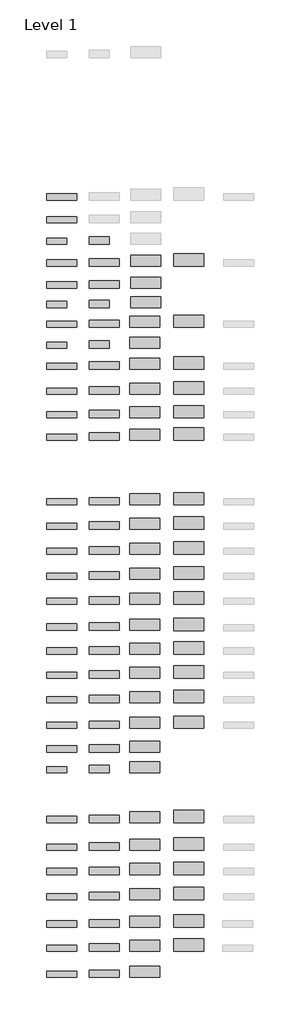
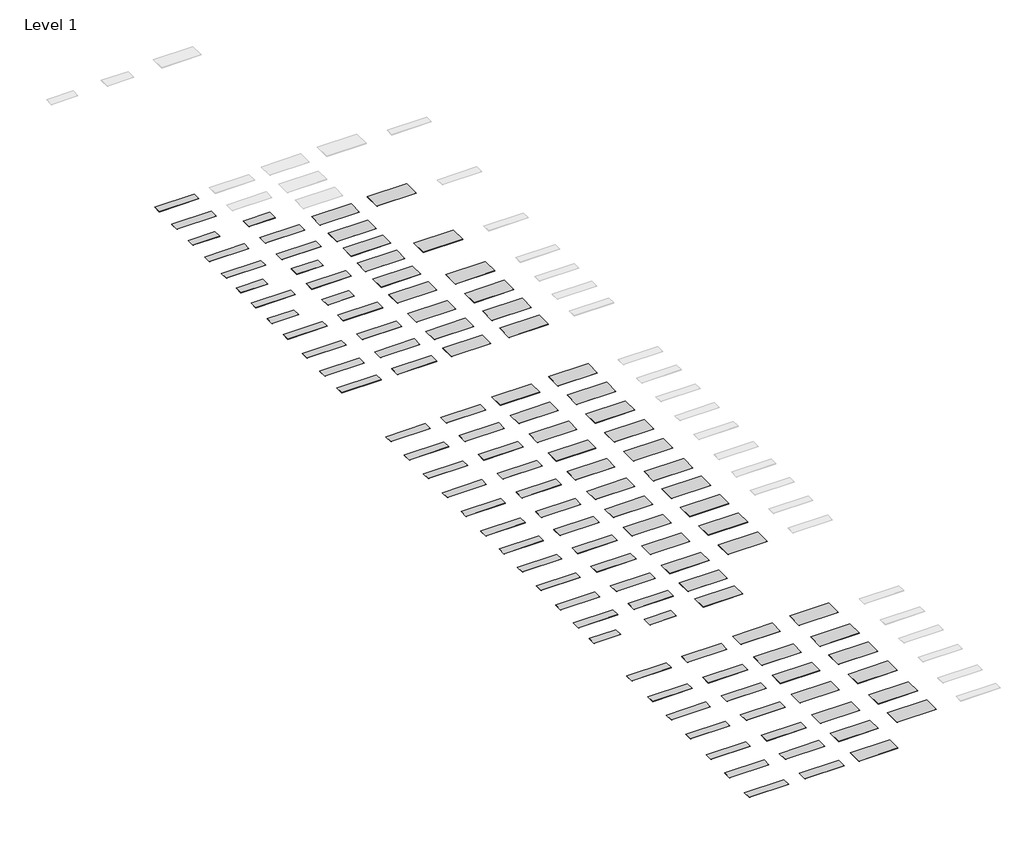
# One storey, part 1 of 2: 110 proxies.
"""IFC4 building model written with IfcOpenShell, lengths in millimetres."""

from ifc_helpers import new_model, si_unit, origin, place, context, project, spatial, transform, mapped, element, save
from components import s001_satin_white_12mm_760x3680mm_7f56e2ab, s001_satin_white_12mm_910x3680mm_ebb0e17e, s001_satin_white_12mm_1350x3680mm_c2ce3097, s001_satin_white_12mm_1520x3680mm_bc4f7f2a, s001_satin_white_6mm_760x2490mm_c0a7b58a, s001_satin_white_6mm_910x2490mm_29e5721c

model = new_model("IFC4")

# Units and contexts
model_context = context("Model", 3, world=origin())
ifc_project = project(units=[si_unit("LENGTHUNIT", "METRE", prefix="MILLI")], contexts=[model_context])

# Site, building, storey
site = spatial("IfcSite", under=ifc_project)
building = spatial("IfcBuilding", under=site)
storey = spatial("IfcBuildingStorey", under=building, Name="Level 1", Elevation=0.0)

# Proxies
placement = place(None, origin())
s001_satin_white_12mm_760x3680mm_shape = s001_satin_white_12mm_760x3680mm_7f56e2ab(model_context)
element("IfcBuildingElementProxy", 1, Name="Kitchen_Counter-Tops_Indoor-Material_HI-MACS_Solids : S102_Babylon-Beige_12mm_760x3680mm", ObjectType="Kitchen_Counter-Tops_Indoor-Material_HI-MACS_Solids : S102_Babylon-Beige_12mm_760x3680mm", at=placement, inside=storey, context=model_context, shape_type="MappedRepresentation", body=[
    mapped(s001_satin_white_12mm_760x3680mm_shape, transform((-20811.8590579, -68063.8627083, 0.0), x_axis=(1.0, 0.0, 0.0), y_axis=(0.0, 1.0, 0.0), z_axis=(0.0, 0.0, 1.0))),
])
element("IfcBuildingElementProxy", 2, Name="Kitchen_Counter-Tops_Indoor-Material_HI-MACS_Solids : S104_Toffee-Brown_12mm_760x3680mm", ObjectType="Kitchen_Counter-Tops_Indoor-Material_HI-MACS_Solids : S104_Toffee-Brown_12mm_760x3680mm", at=placement, inside=storey, context=model_context, shape_type="MappedRepresentation", body=[
    mapped(s001_satin_white_12mm_760x3680mm_shape, transform((-20811.8590579, -78724.1890533, 0.0), x_axis=(1.0, 0.0, 0.0), y_axis=(0.0, 1.0, 0.0), z_axis=(0.0, 0.0, 1.0))),
])
element("IfcBuildingElementProxy", 3, Name="Kitchen_Counter-Tops_Indoor-Material_HI-MACS_Solids : S108_Marta-Grey_12mm_760x3680mm", ObjectType="Kitchen_Counter-Tops_Indoor-Material_HI-MACS_Solids : S108_Marta-Grey_12mm_760x3680mm", at=placement, inside=storey, context=model_context, shape_type="MappedRepresentation", body=[
    mapped(s001_satin_white_12mm_760x3680mm_shape, transform((-20811.8590579, -81711.6390607, 0.0), x_axis=(1.0, 0.0, 0.0), y_axis=(0.0, 1.0, 0.0), z_axis=(0.0, 0.0, 1.0))),
])
element("IfcBuildingElementProxy", 4, Name="Kitchen_Counter-Tops_Indoor-Material_HI-MACS_Solids : S106_Lemon-Squash_12mm_760x3680mm", ObjectType="Kitchen_Counter-Tops_Indoor-Material_HI-MACS_Solids : S106_Lemon-Squash_12mm_760x3680mm", at=placement, inside=storey, context=model_context, shape_type="MappedRepresentation", body=[
    mapped(s001_satin_white_12mm_760x3680mm_shape, transform((-20811.8590579, -87827.4569194, 0.0), x_axis=(1.0, 0.0, 0.0), y_axis=(0.0, 1.0, 0.0), z_axis=(0.0, 0.0, 1.0))),
])
element("IfcBuildingElementProxy", 5, Name="Kitchen_Counter-Tops_Indoor-Material_HI-MACS_Solids : S025_Fiery-Red_12mm_760x3680mm", ObjectType="Kitchen_Counter-Tops_Indoor-Material_HI-MACS_Solids : S025_Fiery-Red_12mm_760x3680mm", at=placement, inside=storey, context=model_context, shape_type="MappedRepresentation", body=[
    mapped(s001_satin_white_12mm_760x3680mm_shape, transform((-20811.8590579, -96987.9035685, 0.0), x_axis=(1.0, 0.0, 0.0), y_axis=(0.0, 1.0, 0.0), z_axis=(0.0, 0.0, 1.0))),
])
element("IfcBuildingElementProxy", 6, Name="Kitchen_Counter-Tops_Indoor-Material_HI-MACS_Solids : S116_Festival-Pink_12mm_760x3680mm", ObjectType="Kitchen_Counter-Tops_Indoor-Material_HI-MACS_Solids : S116_Festival-Pink_12mm_760x3680mm", at=placement, inside=storey, context=model_context, shape_type="MappedRepresentation", body=[
    mapped(s001_satin_white_12mm_760x3680mm_shape, transform((-20811.8590579, -99964.5753354, 0.0), x_axis=(1.0, 0.0, 0.0), y_axis=(0.0, 1.0, 0.0), z_axis=(0.0, 0.0, 1.0))),
])
element("IfcBuildingElementProxy", 7, Name="Kitchen_Counter-Tops_Indoor-Material_HI-MACS_Solids : S115_Deep-Indigo_12mm_760x3680mm", ObjectType="Kitchen_Counter-Tops_Indoor-Material_HI-MACS_Solids : S115_Deep-Indigo_12mm_760x3680mm", at=placement, inside=storey, context=model_context, shape_type="MappedRepresentation", body=[
    mapped(s001_satin_white_12mm_760x3680mm_shape, transform((-20811.8590579, -123994.5445632, 0.0), x_axis=(1.0, 0.0, 0.0), y_axis=(0.0, 1.0, 0.0), z_axis=(0.0, 0.0, 1.0))),
])
s001_satin_white_12mm_910x3680mm_shape = s001_satin_white_12mm_910x3680mm_ebb0e17e(model_context)
element("IfcBuildingElementProxy", 8, Name="Kitchen_Counter-Tops_Indoor-Material_HI-MACS_Solids : S102_Babylon-Beige_12mm_910x3680mm", ObjectType="Kitchen_Counter-Tops_Indoor-Material_HI-MACS_Solids : S102_Babylon-Beige_12mm_910x3680mm", at=placement, inside=storey, context=model_context, shape_type="MappedRepresentation", body=[
    mapped(s001_satin_white_12mm_910x3680mm_shape, transform((-15611.8590579, -67988.8627083, 0.0), x_axis=(1.0, 0.0, 0.0), y_axis=(0.0, 1.0, 0.0), z_axis=(0.0, 0.0, 1.0))),
])
s001_satin_white_12mm_1350x3680mm_shape = s001_satin_white_12mm_1350x3680mm_c2ce3097(model_context)
element("IfcBuildingElementProxy", 9, Name="Kitchen_Counter-Tops_Indoor-Material_HI-MACS_Solids : S102_Babylon-Beige_12mm_1350x3680mm", ObjectType="Kitchen_Counter-Tops_Indoor-Material_HI-MACS_Solids : S102_Babylon-Beige_12mm_1350x3680mm", at=placement, inside=storey, context=model_context, shape_type="MappedRepresentation", body=[
    mapped(s001_satin_white_12mm_1350x3680mm_shape, transform((-10611.8590579, -67768.8627083, 0.0), x_axis=(1.0, 0.0, 0.0), y_axis=(0.0, 1.0, 0.0), z_axis=(0.0, 0.0, 1.0))),
])
s001_satin_white_12mm_1520x3680mm_shape = s001_satin_white_12mm_1520x3680mm_bc4f7f2a(model_context)
element("IfcBuildingElementProxy", 10, Name="Kitchen_Counter-Tops_Indoor-Material_HI-MACS_Solids : S102_Babylon-Beige_12mm_1520x3680mm", ObjectType="Kitchen_Counter-Tops_Indoor-Material_HI-MACS_Solids : S102_Babylon-Beige_12mm_1520x3680mm", at=placement, inside=storey, context=model_context, shape_type="MappedRepresentation", body=[
    mapped(s001_satin_white_12mm_1520x3680mm_shape, transform((-5211.8590579, -67683.8627083, 0.0), x_axis=(1.0, 0.0, 0.0), y_axis=(0.0, 1.0, 0.0), z_axis=(0.0, 0.0, 1.0))),
])
element("IfcBuildingElementProxy", 11, Name="Kitchen_Counter-Tops_Indoor-Material_HI-MACS_Solids : S104_Toffee-Brown_12mm_910x3680mm", ObjectType="Kitchen_Counter-Tops_Indoor-Material_HI-MACS_Solids : S104_Toffee-Brown_12mm_910x3680mm", at=placement, inside=storey, context=model_context, shape_type="MappedRepresentation", body=[
    mapped(s001_satin_white_12mm_910x3680mm_shape, transform((-15611.8590579, -78649.1890533, 0.0), x_axis=(1.0, 0.0, 0.0), y_axis=(0.0, 1.0, 0.0), z_axis=(0.0, 0.0, 1.0))),
])
element("IfcBuildingElementProxy", 12, Name="Kitchen_Counter-Tops_Indoor-Material_HI-MACS_Solids : S104_Toffee-Brown_12mm_1350x3680mm", ObjectType="Kitchen_Counter-Tops_Indoor-Material_HI-MACS_Solids : S104_Toffee-Brown_12mm_1350x3680mm", at=placement, inside=storey, context=model_context, shape_type="MappedRepresentation", body=[
    mapped(s001_satin_white_12mm_1350x3680mm_shape, transform((-10611.8590579, -78429.1890533, 0.0), x_axis=(1.0, 0.0, 0.0), y_axis=(0.0, 1.0, 0.0), z_axis=(0.0, 0.0, 1.0))),
])
element("IfcBuildingElementProxy", 13, Name="Kitchen_Counter-Tops_Indoor-Material_HI-MACS_Solids : S104_Toffee-Brown_12mm_1520x3680mm", ObjectType="Kitchen_Counter-Tops_Indoor-Material_HI-MACS_Solids : S104_Toffee-Brown_12mm_1520x3680mm", at=placement, inside=storey, context=model_context, shape_type="MappedRepresentation", body=[
    mapped(s001_satin_white_12mm_1520x3680mm_shape, transform((-5211.8590579, -78344.1890533, 0.0), x_axis=(1.0, 0.0, 0.0), y_axis=(0.0, 1.0, 0.0), z_axis=(0.0, 0.0, 1.0))),
])
element("IfcBuildingElementProxy", 14, Name="Kitchen_Counter-Tops_Indoor-Material_HI-MACS_Solids : S108_Marta-Grey_12mm_910x3680mm", ObjectType="Kitchen_Counter-Tops_Indoor-Material_HI-MACS_Solids : S108_Marta-Grey_12mm_910x3680mm", at=placement, inside=storey, context=model_context, shape_type="MappedRepresentation", body=[
    mapped(s001_satin_white_12mm_910x3680mm_shape, transform((-15611.8590579, -81636.6390607, 0.0), x_axis=(1.0, 0.0, 0.0), y_axis=(0.0, 1.0, 0.0), z_axis=(0.0, 0.0, 1.0))),
])
element("IfcBuildingElementProxy", 15, Name="Kitchen_Counter-Tops_Indoor-Material_HI-MACS_Solids : S108_Marta-Grey_12mm_1350x3680mm", ObjectType="Kitchen_Counter-Tops_Indoor-Material_HI-MACS_Solids : S108_Marta-Grey_12mm_1350x3680mm", at=placement, inside=storey, context=model_context, shape_type="MappedRepresentation", body=[
    mapped(s001_satin_white_12mm_1350x3680mm_shape, transform((-10611.8590579, -81416.6390607, 0.0), x_axis=(1.0, 0.0, 0.0), y_axis=(0.0, 1.0, 0.0), z_axis=(0.0, 0.0, 1.0))),
])
element("IfcBuildingElementProxy", 16, Name="Kitchen_Counter-Tops_Indoor-Material_HI-MACS_Solids : S108_Marta-Grey_12mm_1520x3680mm", ObjectType="Kitchen_Counter-Tops_Indoor-Material_HI-MACS_Solids : S108_Marta-Grey_12mm_1520x3680mm", at=placement, inside=storey, context=model_context, shape_type="MappedRepresentation", body=[
    mapped(s001_satin_white_12mm_1520x3680mm_shape, transform((-5211.8590579, -81331.6390607, 0.0), x_axis=(1.0, 0.0, 0.0), y_axis=(0.0, 1.0, 0.0), z_axis=(0.0, 0.0, 1.0))),
])
element("IfcBuildingElementProxy", 17, Name="Kitchen_Counter-Tops_Indoor-Material_HI-MACS_Solids : S106_Lemon-Squash_12mm_910x3680mm", ObjectType="Kitchen_Counter-Tops_Indoor-Material_HI-MACS_Solids : S106_Lemon-Squash_12mm_910x3680mm", at=placement, inside=storey, context=model_context, shape_type="MappedRepresentation", body=[
    mapped(s001_satin_white_12mm_910x3680mm_shape, transform((-15611.8590579, -87752.4569194, 0.0), x_axis=(1.0, 0.0, 0.0), y_axis=(0.0, 1.0, 0.0), z_axis=(0.0, 0.0, 1.0))),
])
element("IfcBuildingElementProxy", 18, Name="Kitchen_Counter-Tops_Indoor-Material_HI-MACS_Solids : S106_Lemon-Squash_12mm_1350x3680mm", ObjectType="Kitchen_Counter-Tops_Indoor-Material_HI-MACS_Solids : S106_Lemon-Squash_12mm_1350x3680mm", at=placement, inside=storey, context=model_context, shape_type="MappedRepresentation", body=[
    mapped(s001_satin_white_12mm_1350x3680mm_shape, transform((-10611.8590579, -87532.4569194, 0.0), x_axis=(1.0, 0.0, 0.0), y_axis=(0.0, 1.0, 0.0), z_axis=(0.0, 0.0, 1.0))),
])
element("IfcBuildingElementProxy", 19, Name="Kitchen_Counter-Tops_Indoor-Material_HI-MACS_Solids : S106_Lemon-Squash_12mm_1520x3680mm", ObjectType="Kitchen_Counter-Tops_Indoor-Material_HI-MACS_Solids : S106_Lemon-Squash_12mm_1520x3680mm", at=placement, inside=storey, context=model_context, shape_type="MappedRepresentation", body=[
    mapped(s001_satin_white_12mm_1520x3680mm_shape, transform((-5211.8590579, -87447.4569194, 0.0), x_axis=(1.0, 0.0, 0.0), y_axis=(0.0, 1.0, 0.0), z_axis=(0.0, 0.0, 1.0))),
])
element("IfcBuildingElementProxy", 20, Name="Kitchen_Counter-Tops_Indoor-Material_HI-MACS_Solids : S025_Fiery-Red_12mm_910x3680mm", ObjectType="Kitchen_Counter-Tops_Indoor-Material_HI-MACS_Solids : S025_Fiery-Red_12mm_910x3680mm", at=placement, inside=storey, context=model_context, shape_type="MappedRepresentation", body=[
    mapped(s001_satin_white_12mm_910x3680mm_shape, transform((-15611.8590579, -96912.9035685, 0.0), x_axis=(1.0, 0.0, 0.0), y_axis=(0.0, 1.0, 0.0), z_axis=(0.0, 0.0, 1.0))),
])
element("IfcBuildingElementProxy", 21, Name="Kitchen_Counter-Tops_Indoor-Material_HI-MACS_Solids : S025_Fiery-Red_12mm_1350x3680mm", ObjectType="Kitchen_Counter-Tops_Indoor-Material_HI-MACS_Solids : S025_Fiery-Red_12mm_1350x3680mm", at=placement, inside=storey, context=model_context, shape_type="MappedRepresentation", body=[
    mapped(s001_satin_white_12mm_1350x3680mm_shape, transform((-10611.8590579, -96692.9035685, 0.0), x_axis=(1.0, 0.0, 0.0), y_axis=(0.0, 1.0, 0.0), z_axis=(0.0, 0.0, 1.0))),
])
element("IfcBuildingElementProxy", 22, Name="Kitchen_Counter-Tops_Indoor-Material_HI-MACS_Solids : S025_Fiery-Red_12mm_1520x3680mm", ObjectType="Kitchen_Counter-Tops_Indoor-Material_HI-MACS_Solids : S025_Fiery-Red_12mm_1520x3680mm", at=placement, inside=storey, context=model_context, shape_type="MappedRepresentation", body=[
    mapped(s001_satin_white_12mm_1520x3680mm_shape, transform((-5211.8590579, -96607.9035685, 0.0), x_axis=(1.0, 0.0, 0.0), y_axis=(0.0, 1.0, 0.0), z_axis=(0.0, 0.0, 1.0))),
])
element("IfcBuildingElementProxy", 23, Name="Kitchen_Counter-Tops_Indoor-Material_HI-MACS_Solids : S116_Festival-Pink_12mm_910x3680mm", ObjectType="Kitchen_Counter-Tops_Indoor-Material_HI-MACS_Solids : S116_Festival-Pink_12mm_910x3680mm", at=placement, inside=storey, context=model_context, shape_type="MappedRepresentation", body=[
    mapped(s001_satin_white_12mm_910x3680mm_shape, transform((-15611.8590579, -99889.5753354, 0.0), x_axis=(1.0, 0.0, 0.0), y_axis=(0.0, 1.0, 0.0), z_axis=(0.0, 0.0, 1.0))),
])
element("IfcBuildingElementProxy", 24, Name="Kitchen_Counter-Tops_Indoor-Material_HI-MACS_Solids : S116_Festival-Pink_12mm_1350x3680mm", ObjectType="Kitchen_Counter-Tops_Indoor-Material_HI-MACS_Solids : S116_Festival-Pink_12mm_1350x3680mm", at=placement, inside=storey, context=model_context, shape_type="MappedRepresentation", body=[
    mapped(s001_satin_white_12mm_1350x3680mm_shape, transform((-10611.8590579, -99669.5753354, 0.0), x_axis=(1.0, 0.0, 0.0), y_axis=(0.0, 1.0, 0.0), z_axis=(0.0, 0.0, 1.0))),
])
element("IfcBuildingElementProxy", 25, Name="Kitchen_Counter-Tops_Indoor-Material_HI-MACS_Solids : S116_Festival-Pink_12mm_1520x3680mm", ObjectType="Kitchen_Counter-Tops_Indoor-Material_HI-MACS_Solids : S116_Festival-Pink_12mm_1520x3680mm", at=placement, inside=storey, context=model_context, shape_type="MappedRepresentation", body=[
    mapped(s001_satin_white_12mm_1520x3680mm_shape, transform((-5211.8590579, -99584.5753354, 0.0), x_axis=(1.0, 0.0, 0.0), y_axis=(0.0, 1.0, 0.0), z_axis=(0.0, 0.0, 1.0))),
])
element("IfcBuildingElementProxy", 26, Name="Kitchen_Counter-Tops_Indoor-Material_HI-MACS_Solids : S115_Deep-Indigo_12mm_910x3680mm", ObjectType="Kitchen_Counter-Tops_Indoor-Material_HI-MACS_Solids : S115_Deep-Indigo_12mm_910x3680mm", at=placement, inside=storey, context=model_context, shape_type="MappedRepresentation", body=[
    mapped(s001_satin_white_12mm_910x3680mm_shape, transform((-15611.8590579, -123919.5445632, 0.0), x_axis=(1.0, 0.0, 0.0), y_axis=(0.0, 1.0, 0.0), z_axis=(0.0, 0.0, 1.0))),
])
element("IfcBuildingElementProxy", 27, Name="Kitchen_Counter-Tops_Indoor-Material_HI-MACS_Solids : S115_Deep-Indigo_12mm_1350x3680mm", ObjectType="Kitchen_Counter-Tops_Indoor-Material_HI-MACS_Solids : S115_Deep-Indigo_12mm_1350x3680mm", at=placement, inside=storey, context=model_context, shape_type="MappedRepresentation", body=[
    mapped(s001_satin_white_12mm_1350x3680mm_shape, transform((-10611.8590579, -123699.5445632, 0.0), x_axis=(1.0, 0.0, 0.0), y_axis=(0.0, 1.0, 0.0), z_axis=(0.0, 0.0, 1.0))),
])
element("IfcBuildingElementProxy", 28, Name="Kitchen_Counter-Tops_Indoor-Material_HI-MACS_Solids : S115_Deep-Indigo_12mm_1520x3680mm", ObjectType="Kitchen_Counter-Tops_Indoor-Material_HI-MACS_Solids : S115_Deep-Indigo_12mm_1520x3680mm", at=placement, inside=storey, context=model_context, shape_type="MappedRepresentation", body=[
    mapped(s001_satin_white_12mm_1520x3680mm_shape, transform((-5211.8590579, -123614.5445632, 0.0), x_axis=(1.0, 0.0, 0.0), y_axis=(0.0, 1.0, 0.0), z_axis=(0.0, 0.0, 1.0))),
])
element("IfcBuildingElementProxy", 29, Name="Kitchen_Counter-Tops_Indoor-Material_HI-MACS_Solids : S001_Satin-White_12mm_1350x3680mm", ObjectType="Kitchen_Counter-Tops_Indoor-Material_HI-MACS_Solids : S001_Satin-White_12mm_1350x3680mm", at=placement, inside=storey, context=model_context, shape_type="MappedRepresentation", body=[
    mapped(s001_satin_white_12mm_1350x3680mm_shape, transform((-10511.8590579, -49177.1888204, 0.0), x_axis=(1.0, 0.0, 0.0), y_axis=(0.0, 1.0, 0.0), z_axis=(0.0, 0.0, 1.0))),
])
element("IfcBuildingElementProxy", 30, Name="Kitchen_Counter-Tops_Indoor-Material_HI-MACS_Solids : S001_Satin-White_12mm_1520x3680mm", ObjectType="Kitchen_Counter-Tops_Indoor-Material_HI-MACS_Solids : S001_Satin-White_12mm_1520x3680mm", at=placement, inside=storey, context=model_context, shape_type="MappedRepresentation", body=[
    mapped(s001_satin_white_12mm_1520x3680mm_shape, transform((-5211.8590579, -49092.1888204, 0.0), x_axis=(1.0, 0.0, 0.0), y_axis=(0.0, 1.0, 0.0), z_axis=(0.0, 0.0, 1.0))),
])
element("IfcBuildingElementProxy", 31, Name="Kitchen_Counter-Tops_Indoor-Material_HI-MACS_Solids : S001_Satin-White_12mm_760x3680mm", ObjectType="Kitchen_Counter-Tops_Indoor-Material_HI-MACS_Solids : S001_Satin-White_12mm_760x3680mm", at=placement, inside=storey, context=model_context, shape_type="MappedRepresentation", body=[
    mapped(s001_satin_white_12mm_760x3680mm_shape, transform((-20812.5064865, -49472.1888204, 0.0), x_axis=(1.0, 0.0, 0.0), y_axis=(0.0, 1.0, 0.0), z_axis=(0.0, 0.0, 1.0))),
])
element("IfcBuildingElementProxy", 32, Name="Kitchen_Counter-Tops_Indoor-Material_HI-MACS_Solids : S001_Satin-White_12mm_910x3680mm", ObjectType="Kitchen_Counter-Tops_Indoor-Material_HI-MACS_Solids : S001_Satin-White_12mm_910x3680mm", at=placement, inside=storey, context=model_context, shape_type="MappedRepresentation", body=[
    mapped(s001_satin_white_12mm_910x3680mm_shape, transform((-15611.8590579, -49397.1888204, 0.0), x_axis=(1.0, 0.0, 0.0), y_axis=(0.0, 1.0, 0.0), z_axis=(0.0, 0.0, 1.0))),
])
element("IfcBuildingElementProxy", 33, Name="Kitchen_Counter-Tops_Indoor-Material_HI-MACS_Solids : S001_Satin-White_6mm_1350x3680mm", ObjectType="Kitchen_Counter-Tops_Indoor-Material_HI-MACS_Solids : S001_Satin-White_6mm_1350x3680mm", at=placement, inside=storey, context=model_context, shape_type="MappedRepresentation", body=[
    mapped(s001_satin_white_12mm_1350x3680mm_shape, transform((-10511.8590579, -54257.1888204, 0.0), x_axis=(1.0, 0.0, 0.0), y_axis=(0.0, 1.0, 0.0), z_axis=(0.0, 0.0, 1.0))),
])
s001_satin_white_6mm_760x2490mm_shape = s001_satin_white_6mm_760x2490mm_c0a7b58a(model_context)
element("IfcBuildingElementProxy", 34, Name="Kitchen_Counter-Tops_Indoor-Material_HI-MACS_Solids : S001_Satin-White_6mm_760x2490mm", ObjectType="Kitchen_Counter-Tops_Indoor-Material_HI-MACS_Solids : S001_Satin-White_6mm_760x2490mm", at=placement, inside=storey, context=model_context, shape_type="MappedRepresentation", body=[
    mapped(s001_satin_white_6mm_760x2490mm_shape, transform((-21407.5064865, -54552.1888204, 0.0), x_axis=(1.0, 0.0, 0.0), y_axis=(0.0, 1.0, 0.0), z_axis=(0.0, 0.0, 1.0))),
])
s001_satin_white_6mm_910x2490mm_shape = s001_satin_white_6mm_910x2490mm_29e5721c(model_context)
element("IfcBuildingElementProxy", 35, Name="Kitchen_Counter-Tops_Indoor-Material_HI-MACS_Solids : S001_Satin-White_6mm_910x2490mm", ObjectType="Kitchen_Counter-Tops_Indoor-Material_HI-MACS_Solids : S001_Satin-White_6mm_910x2490mm", at=placement, inside=storey, context=model_context, shape_type="MappedRepresentation", body=[
    mapped(s001_satin_white_6mm_910x2490mm_shape, transform((-16206.8590579, -54477.1888204, 0.0), x_axis=(1.0, 0.0, 0.0), y_axis=(0.0, 1.0, 0.0), z_axis=(0.0, 0.0, 1.0))),
])
element("IfcBuildingElementProxy", 36, Name="Kitchen_Counter-Tops_Indoor-Material_HI-MACS_Solids : S001_Satin-White_9mm_1350x3680mm", ObjectType="Kitchen_Counter-Tops_Indoor-Material_HI-MACS_Solids : S001_Satin-White_9mm_1350x3680mm", at=placement, inside=storey, context=model_context, shape_type="MappedRepresentation", body=[
    mapped(s001_satin_white_12mm_1350x3680mm_shape, transform((-10511.8590579, -51877.1888204, 0.0), x_axis=(1.0, 0.0, 0.0), y_axis=(0.0, 1.0, 0.0), z_axis=(0.0, 0.0, 1.0))),
])
element("IfcBuildingElementProxy", 37, Name="Kitchen_Counter-Tops_Indoor-Material_HI-MACS_Solids : S001_Satin-White_9mm_760x3680mm", ObjectType="Kitchen_Counter-Tops_Indoor-Material_HI-MACS_Solids : S001_Satin-White_9mm_760x3680mm", at=placement, inside=storey, context=model_context, shape_type="MappedRepresentation", body=[
    mapped(s001_satin_white_12mm_760x3680mm_shape, transform((-20812.5064865, -52172.1888204, 0.0), x_axis=(1.0, 0.0, 0.0), y_axis=(0.0, 1.0, 0.0), z_axis=(0.0, 0.0, 1.0))),
])
element("IfcBuildingElementProxy", 38, Name="Kitchen_Counter-Tops_Indoor-Material_HI-MACS_Solids : S001_Satin-White_9mm_910x3680mm", ObjectType="Kitchen_Counter-Tops_Indoor-Material_HI-MACS_Solids : S001_Satin-White_9mm_910x3680mm", at=placement, inside=storey, context=model_context, shape_type="MappedRepresentation", body=[
    mapped(s001_satin_white_12mm_910x3680mm_shape, transform((-15611.8590579, -52097.1888204, 0.0), x_axis=(1.0, 0.0, 0.0), y_axis=(0.0, 1.0, 0.0), z_axis=(0.0, 0.0, 1.0))),
])
element("IfcBuildingElementProxy", 39, Name="Kitchen_Counter-Tops_Indoor-Material_HI-MACS_Solids : S002_Almond_12mm_1350x3680mm", ObjectType="Kitchen_Counter-Tops_Indoor-Material_HI-MACS_Solids : S002_Almond_12mm_1350x3680mm", at=placement, inside=storey, context=model_context, shape_type="MappedRepresentation", body=[
    mapped(s001_satin_white_12mm_1350x3680mm_shape, transform((-10611.8590579, -64877.1888204, 0.0), x_axis=(1.0, 0.0, 0.0), y_axis=(0.0, 1.0, 0.0), z_axis=(0.0, 0.0, 1.0))),
])
element("IfcBuildingElementProxy", 40, Name="Kitchen_Counter-Tops_Indoor-Material_HI-MACS_Solids : S002_Almond_12mm_1520x3680mm", ObjectType="Kitchen_Counter-Tops_Indoor-Material_HI-MACS_Solids : S002_Almond_12mm_1520x3680mm", at=placement, inside=storey, context=model_context, shape_type="MappedRepresentation", body=[
    mapped(s001_satin_white_12mm_1520x3680mm_shape, transform((-5211.8590579, -64792.1888204, 0.0), x_axis=(1.0, 0.0, 0.0), y_axis=(0.0, 1.0, 0.0), z_axis=(0.0, 0.0, 1.0))),
])
element("IfcBuildingElementProxy", 41, Name="Kitchen_Counter-Tops_Indoor-Material_HI-MACS_Solids : S002_Almond_12mm_760x3680mm", ObjectType="Kitchen_Counter-Tops_Indoor-Material_HI-MACS_Solids : S002_Almond_12mm_760x3680mm", at=placement, inside=storey, context=model_context, shape_type="MappedRepresentation", body=[
    mapped(s001_satin_white_12mm_760x3680mm_shape, transform((-20811.8590579, -65172.1888204, 0.0), x_axis=(1.0, 0.0, 0.0), y_axis=(0.0, 1.0, 0.0), z_axis=(0.0, 0.0, 1.0))),
])
element("IfcBuildingElementProxy", 42, Name="Kitchen_Counter-Tops_Indoor-Material_HI-MACS_Solids : S002_Almond_12mm_910x3680mm", ObjectType="Kitchen_Counter-Tops_Indoor-Material_HI-MACS_Solids : S002_Almond_12mm_910x3680mm", at=placement, inside=storey, context=model_context, shape_type="MappedRepresentation", body=[
    mapped(s001_satin_white_12mm_910x3680mm_shape, transform((-15611.8590579, -65097.1888204, 0.0), x_axis=(1.0, 0.0, 0.0), y_axis=(0.0, 1.0, 0.0), z_axis=(0.0, 0.0, 1.0))),
])
element("IfcBuildingElementProxy", 43, Name="Kitchen_Counter-Tops_Indoor-Material_HI-MACS_Solids : S005_Grey_12mm_1350x3680mm", ObjectType="Kitchen_Counter-Tops_Indoor-Material_HI-MACS_Solids : S005_Grey_12mm_1350x3680mm", at=placement, inside=storey, context=model_context, shape_type="MappedRepresentation", body=[
    mapped(s001_satin_white_12mm_1350x3680mm_shape, transform((-10611.8590579, -105813.3040816, 0.0), x_axis=(1.0, 0.0, 0.0), y_axis=(0.0, 1.0, 0.0), z_axis=(0.0, 0.0, 1.0))),
])
element("IfcBuildingElementProxy", 44, Name="Kitchen_Counter-Tops_Indoor-Material_HI-MACS_Solids : S005_Grey_12mm_1520x3680mm", ObjectType="Kitchen_Counter-Tops_Indoor-Material_HI-MACS_Solids : S005_Grey_12mm_1520x3680mm", at=placement, inside=storey, context=model_context, shape_type="MappedRepresentation", body=[
    mapped(s001_satin_white_12mm_1520x3680mm_shape, transform((-5211.8590579, -105728.3040816, 0.0), x_axis=(1.0, 0.0, 0.0), y_axis=(0.0, 1.0, 0.0), z_axis=(0.0, 0.0, 1.0))),
])
element("IfcBuildingElementProxy", 45, Name="Kitchen_Counter-Tops_Indoor-Material_HI-MACS_Solids : S005_Grey_12mm_760x3680mm", ObjectType="Kitchen_Counter-Tops_Indoor-Material_HI-MACS_Solids : S005_Grey_12mm_760x3680mm", at=placement, inside=storey, context=model_context, shape_type="MappedRepresentation", body=[
    mapped(s001_satin_white_12mm_760x3680mm_shape, transform((-20811.8590579, -106108.3040816, 0.0), x_axis=(1.0, 0.0, 0.0), y_axis=(0.0, 1.0, 0.0), z_axis=(0.0, 0.0, 1.0))),
])
element("IfcBuildingElementProxy", 46, Name="Kitchen_Counter-Tops_Indoor-Material_HI-MACS_Solids : S005_Grey_12mm_910x3680mm", ObjectType="Kitchen_Counter-Tops_Indoor-Material_HI-MACS_Solids : S005_Grey_12mm_910x3680mm", at=placement, inside=storey, context=model_context, shape_type="MappedRepresentation", body=[
    mapped(s001_satin_white_12mm_910x3680mm_shape, transform((-15611.8590579, -106033.3040816, 0.0), x_axis=(1.0, 0.0, 0.0), y_axis=(0.0, 1.0, 0.0), z_axis=(0.0, 0.0, 1.0))),
])
element("IfcBuildingElementProxy", 47, Name="Kitchen_Counter-Tops_Indoor-Material_HI-MACS_Solids : S005_Grey_6mm_1350x3680mm", ObjectType="Kitchen_Counter-Tops_Indoor-Material_HI-MACS_Solids : S005_Grey_6mm_1350x3680mm", at=placement, inside=storey, context=model_context, shape_type="MappedRepresentation", body=[
    mapped(s001_satin_white_12mm_1350x3680mm_shape, transform((-10611.8590579, -111253.3040816, 0.0), x_axis=(1.0, 0.0, 0.0), y_axis=(0.0, 1.0, 0.0), z_axis=(0.0, 0.0, 1.0))),
])
element("IfcBuildingElementProxy", 48, Name="Kitchen_Counter-Tops_Indoor-Material_HI-MACS_Solids : S005_Grey_6mm_760x2490mm", ObjectType="Kitchen_Counter-Tops_Indoor-Material_HI-MACS_Solids : S005_Grey_6mm_760x2490mm", at=placement, inside=storey, context=model_context, shape_type="MappedRepresentation", body=[
    mapped(s001_satin_white_6mm_760x2490mm_shape, transform((-21406.8590579, -111548.3040816, 0.0), x_axis=(1.0, 0.0, 0.0), y_axis=(0.0, 1.0, 0.0), z_axis=(0.0, 0.0, 1.0))),
])
element("IfcBuildingElementProxy", 49, Name="Kitchen_Counter-Tops_Indoor-Material_HI-MACS_Solids : S005_Grey_6mm_910x2490mm", ObjectType="Kitchen_Counter-Tops_Indoor-Material_HI-MACS_Solids : S005_Grey_6mm_910x2490mm", at=placement, inside=storey, context=model_context, shape_type="MappedRepresentation", body=[
    mapped(s001_satin_white_6mm_910x2490mm_shape, transform((-16206.8590579, -111473.3040816, 0.0), x_axis=(1.0, 0.0, 0.0), y_axis=(0.0, 1.0, 0.0), z_axis=(0.0, 0.0, 1.0))),
])
element("IfcBuildingElementProxy", 50, Name="Kitchen_Counter-Tops_Indoor-Material_HI-MACS_Solids : S005_Grey_9mm_1350x3680mm", ObjectType="Kitchen_Counter-Tops_Indoor-Material_HI-MACS_Solids : S005_Grey_9mm_1350x3680mm", at=placement, inside=storey, context=model_context, shape_type="MappedRepresentation", body=[
    mapped(s001_satin_white_12mm_1350x3680mm_shape, transform((-10611.8590579, -108713.3040816, 0.0), x_axis=(1.0, 0.0, 0.0), y_axis=(0.0, 1.0, 0.0), z_axis=(0.0, 0.0, 1.0))),
])
element("IfcBuildingElementProxy", 51, Name="Kitchen_Counter-Tops_Indoor-Material_HI-MACS_Solids : S005_Grey_9mm_760x3680mm", ObjectType="Kitchen_Counter-Tops_Indoor-Material_HI-MACS_Solids : S005_Grey_9mm_760x3680mm", at=placement, inside=storey, context=model_context, shape_type="MappedRepresentation", body=[
    mapped(s001_satin_white_12mm_760x3680mm_shape, transform((-20811.8590579, -109008.3040816, 0.0), x_axis=(1.0, 0.0, 0.0), y_axis=(0.0, 1.0, 0.0), z_axis=(0.0, 0.0, 1.0))),
])
element("IfcBuildingElementProxy", 52, Name="Kitchen_Counter-Tops_Indoor-Material_HI-MACS_Solids : S005_Grey_9mm_910x3680mm", ObjectType="Kitchen_Counter-Tops_Indoor-Material_HI-MACS_Solids : S005_Grey_9mm_910x3680mm", at=placement, inside=storey, context=model_context, shape_type="MappedRepresentation", body=[
    mapped(s001_satin_white_12mm_910x3680mm_shape, transform((-15611.8590579, -108933.3040816, 0.0), x_axis=(1.0, 0.0, 0.0), y_axis=(0.0, 1.0, 0.0), z_axis=(0.0, 0.0, 1.0))),
])
element("IfcBuildingElementProxy", 53, Name="Kitchen_Counter-Tops_Indoor-Material_HI-MACS_Solids : S009_Cream_12mm_1350x3680mm", ObjectType="Kitchen_Counter-Tops_Indoor-Material_HI-MACS_Solids : S009_Cream_12mm_1350x3680mm", at=placement, inside=storey, context=model_context, shape_type="MappedRepresentation", body=[
    mapped(s001_satin_white_12mm_1350x3680mm_shape, transform((-10611.8590579, -56684.5477152, 0.0), x_axis=(1.0, 0.0, 0.0), y_axis=(0.0, 1.0, 0.0), z_axis=(0.0, 0.0, 1.0))),
])
element("IfcBuildingElementProxy", 54, Name="Kitchen_Counter-Tops_Indoor-Material_HI-MACS_Solids : S009_Cream_12mm_1520x3680mm", ObjectType="Kitchen_Counter-Tops_Indoor-Material_HI-MACS_Solids : S009_Cream_12mm_1520x3680mm", at=placement, inside=storey, context=model_context, shape_type="MappedRepresentation", body=[
    mapped(s001_satin_white_12mm_1520x3680mm_shape, transform((-5211.8590579, -56599.5477152, 0.0), x_axis=(1.0, 0.0, 0.0), y_axis=(0.0, 1.0, 0.0), z_axis=(0.0, 0.0, 1.0))),
])
element("IfcBuildingElementProxy", 55, Name="Kitchen_Counter-Tops_Indoor-Material_HI-MACS_Solids : S009_Cream_12mm_760x3680mm", ObjectType="Kitchen_Counter-Tops_Indoor-Material_HI-MACS_Solids : S009_Cream_12mm_760x3680mm", at=placement, inside=storey, context=model_context, shape_type="MappedRepresentation", body=[
    mapped(s001_satin_white_12mm_760x3680mm_shape, transform((-20812.5064865, -56979.5477152, 0.0), x_axis=(1.0, 0.0, 0.0), y_axis=(0.0, 1.0, 0.0), z_axis=(0.0, 0.0, 1.0))),
])
element("IfcBuildingElementProxy", 56, Name="Kitchen_Counter-Tops_Indoor-Material_HI-MACS_Solids : S009_Cream_12mm_910x3680mm", ObjectType="Kitchen_Counter-Tops_Indoor-Material_HI-MACS_Solids : S009_Cream_12mm_910x3680mm", at=placement, inside=storey, context=model_context, shape_type="MappedRepresentation", body=[
    mapped(s001_satin_white_12mm_910x3680mm_shape, transform((-15611.8590579, -56904.5477152, 0.0), x_axis=(1.0, 0.0, 0.0), y_axis=(0.0, 1.0, 0.0), z_axis=(0.0, 0.0, 1.0))),
])
element("IfcBuildingElementProxy", 57, Name="Kitchen_Counter-Tops_Indoor-Material_HI-MACS_Solids : S009_Cream_6mm_1350x3680mm", ObjectType="Kitchen_Counter-Tops_Indoor-Material_HI-MACS_Solids : S009_Cream_6mm_1350x3680mm", at=placement, inside=storey, context=model_context, shape_type="MappedRepresentation", body=[
    mapped(s001_satin_white_12mm_1350x3680mm_shape, transform((-10611.8590579, -59244.5477152, 0.0), x_axis=(1.0, 0.0, 0.0), y_axis=(0.0, 1.0, 0.0), z_axis=(0.0, 0.0, 1.0))),
])
element("IfcBuildingElementProxy", 58, Name="Kitchen_Counter-Tops_Indoor-Material_HI-MACS_Solids : S009_Cream_6mm_760x2490mm", ObjectType="Kitchen_Counter-Tops_Indoor-Material_HI-MACS_Solids : S009_Cream_6mm_760x2490mm", at=placement, inside=storey, context=model_context, shape_type="MappedRepresentation", body=[
    mapped(s001_satin_white_6mm_760x2490mm_shape, transform((-21407.5064865, -59539.5477152, 0.0), x_axis=(1.0, 0.0, 0.0), y_axis=(0.0, 1.0, 0.0), z_axis=(0.0, 0.0, 1.0))),
])
element("IfcBuildingElementProxy", 59, Name="Kitchen_Counter-Tops_Indoor-Material_HI-MACS_Solids : S009_Cream_6mm_910x2490mm", ObjectType="Kitchen_Counter-Tops_Indoor-Material_HI-MACS_Solids : S009_Cream_6mm_910x2490mm", at=placement, inside=storey, context=model_context, shape_type="MappedRepresentation", body=[
    mapped(s001_satin_white_6mm_910x2490mm_shape, transform((-16206.8590579, -59464.5477152, 0.0), x_axis=(1.0, 0.0, 0.0), y_axis=(0.0, 1.0, 0.0), z_axis=(0.0, 0.0, 1.0))),
])
element("IfcBuildingElementProxy", 60, Name="Kitchen_Counter-Tops_Indoor-Material_HI-MACS_Solids : S022_Black_12mm_1350x3680mm", ObjectType="Kitchen_Counter-Tops_Indoor-Material_HI-MACS_Solids : S022_Black_12mm_1350x3680mm", at=placement, inside=storey, context=model_context, shape_type="MappedRepresentation", body=[
    mapped(s001_satin_white_12mm_1350x3680mm_shape, transform((-10611.8590579, -133111.0645662, 0.0), x_axis=(1.0, 0.0, 0.0), y_axis=(0.0, 1.0, 0.0), z_axis=(0.0, 0.0, 1.0))),
])
element("IfcBuildingElementProxy", 61, Name="Kitchen_Counter-Tops_Indoor-Material_HI-MACS_Solids : S022_Black_12mm_1520x3680mm", ObjectType="Kitchen_Counter-Tops_Indoor-Material_HI-MACS_Solids : S022_Black_12mm_1520x3680mm", at=placement, inside=storey, context=model_context, shape_type="MappedRepresentation", body=[
    mapped(s001_satin_white_12mm_1520x3680mm_shape, transform((-5211.8590579, -133026.0645662, 0.0), x_axis=(1.0, 0.0, 0.0), y_axis=(0.0, 1.0, 0.0), z_axis=(0.0, 0.0, 1.0))),
])
element("IfcBuildingElementProxy", 62, Name="Kitchen_Counter-Tops_Indoor-Material_HI-MACS_Solids : S022_Black_12mm_760x3680mm", ObjectType="Kitchen_Counter-Tops_Indoor-Material_HI-MACS_Solids : S022_Black_12mm_760x3680mm", at=placement, inside=storey, context=model_context, shape_type="MappedRepresentation", body=[
    mapped(s001_satin_white_12mm_760x3680mm_shape, transform((-20811.8590579, -133406.0645662, 0.0), x_axis=(1.0, 0.0, 0.0), y_axis=(0.0, 1.0, 0.0), z_axis=(0.0, 0.0, 1.0))),
])
element("IfcBuildingElementProxy", 63, Name="Kitchen_Counter-Tops_Indoor-Material_HI-MACS_Solids : S022_Black_12mm_910x3680mm", ObjectType="Kitchen_Counter-Tops_Indoor-Material_HI-MACS_Solids : S022_Black_12mm_910x3680mm", at=placement, inside=storey, context=model_context, shape_type="MappedRepresentation", body=[
    mapped(s001_satin_white_12mm_910x3680mm_shape, transform((-15611.8590579, -133331.0645662, 0.0), x_axis=(1.0, 0.0, 0.0), y_axis=(0.0, 1.0, 0.0), z_axis=(0.0, 0.0, 1.0))),
])
element("IfcBuildingElementProxy", 64, Name="Kitchen_Counter-Tops_Indoor-Material_HI-MACS_Solids : S022_Black_9mm_1350x3680mm", ObjectType="Kitchen_Counter-Tops_Indoor-Material_HI-MACS_Solids : S022_Black_9mm_1350x3680mm", at=placement, inside=storey, context=model_context, shape_type="MappedRepresentation", body=[
    mapped(s001_satin_white_12mm_1350x3680mm_shape, transform((-10611.8590579, -136311.0645662, 0.0), x_axis=(1.0, 0.0, 0.0), y_axis=(0.0, 1.0, 0.0), z_axis=(0.0, 0.0, 1.0))),
])
element("IfcBuildingElementProxy", 65, Name="Kitchen_Counter-Tops_Indoor-Material_HI-MACS_Solids : S022_Black_9mm_760x3680mm", ObjectType="Kitchen_Counter-Tops_Indoor-Material_HI-MACS_Solids : S022_Black_9mm_760x3680mm", at=placement, inside=storey, context=model_context, shape_type="MappedRepresentation", body=[
    mapped(s001_satin_white_12mm_760x3680mm_shape, transform((-20811.8590579, -136606.0645662, 0.0), x_axis=(1.0, 0.0, 0.0), y_axis=(0.0, 1.0, 0.0), z_axis=(0.0, 0.0, 1.0))),
])
element("IfcBuildingElementProxy", 66, Name="Kitchen_Counter-Tops_Indoor-Material_HI-MACS_Solids : S022_Black_9mm_910x3680mm", ObjectType="Kitchen_Counter-Tops_Indoor-Material_HI-MACS_Solids : S022_Black_9mm_910x3680mm", at=placement, inside=storey, context=model_context, shape_type="MappedRepresentation", body=[
    mapped(s001_satin_white_12mm_910x3680mm_shape, transform((-15611.8590579, -136531.0645662, 0.0), x_axis=(1.0, 0.0, 0.0), y_axis=(0.0, 1.0, 0.0), z_axis=(0.0, 0.0, 1.0))),
])
element("IfcBuildingElementProxy", 67, Name="Kitchen_Counter-Tops_Indoor-Material_HI-MACS_Solids : S026_Banana_12mm_1350x3680mm", ObjectType="Kitchen_Counter-Tops_Indoor-Material_HI-MACS_Solids : S026_Banana_12mm_1350x3680mm", at=placement, inside=storey, context=model_context, shape_type="MappedRepresentation", body=[
    mapped(s001_satin_white_12mm_1350x3680mm_shape, transform((-10611.8590579, -90594.7667378, 0.0), x_axis=(1.0, 0.0, 0.0), y_axis=(0.0, 1.0, 0.0), z_axis=(0.0, 0.0, 1.0))),
])
element("IfcBuildingElementProxy", 68, Name="Kitchen_Counter-Tops_Indoor-Material_HI-MACS_Solids : S026_Banana_12mm_1520x3680mm", ObjectType="Kitchen_Counter-Tops_Indoor-Material_HI-MACS_Solids : S026_Banana_12mm_1520x3680mm", at=placement, inside=storey, context=model_context, shape_type="MappedRepresentation", body=[
    mapped(s001_satin_white_12mm_1520x3680mm_shape, transform((-5211.8590579, -90509.7667378, 0.0), x_axis=(1.0, 0.0, 0.0), y_axis=(0.0, 1.0, 0.0), z_axis=(0.0, 0.0, 1.0))),
])
element("IfcBuildingElementProxy", 69, Name="Kitchen_Counter-Tops_Indoor-Material_HI-MACS_Solids : S026_Banana_12mm_760x3680mm", ObjectType="Kitchen_Counter-Tops_Indoor-Material_HI-MACS_Solids : S026_Banana_12mm_760x3680mm", at=placement, inside=storey, context=model_context, shape_type="MappedRepresentation", body=[
    mapped(s001_satin_white_12mm_760x3680mm_shape, transform((-20811.8590579, -90889.7667378, 0.0), x_axis=(1.0, 0.0, 0.0), y_axis=(0.0, 1.0, 0.0), z_axis=(0.0, 0.0, 1.0))),
])
element("IfcBuildingElementProxy", 70, Name="Kitchen_Counter-Tops_Indoor-Material_HI-MACS_Solids : S026_Banana_12mm_910x3680mm", ObjectType="Kitchen_Counter-Tops_Indoor-Material_HI-MACS_Solids : S026_Banana_12mm_910x3680mm", at=placement, inside=storey, context=model_context, shape_type="MappedRepresentation", body=[
    mapped(s001_satin_white_12mm_910x3680mm_shape, transform((-15611.8590579, -90814.7667378, 0.0), x_axis=(1.0, 0.0, 0.0), y_axis=(0.0, 1.0, 0.0), z_axis=(0.0, 0.0, 1.0))),
])
element("IfcBuildingElementProxy", 71, Name="Kitchen_Counter-Tops_Indoor-Material_HI-MACS_Solids : S027_Orange_12mm_1350x3680mm", ObjectType="Kitchen_Counter-Tops_Indoor-Material_HI-MACS_Solids : S027_Orange_12mm_1350x3680mm", at=placement, inside=storey, context=model_context, shape_type="MappedRepresentation", body=[
    mapped(s001_satin_white_12mm_1350x3680mm_shape, transform((-10611.8590579, -93768.5615786, 0.0), x_axis=(1.0, 0.0, 0.0), y_axis=(0.0, 1.0, 0.0), z_axis=(0.0, 0.0, 1.0))),
])
element("IfcBuildingElementProxy", 72, Name="Kitchen_Counter-Tops_Indoor-Material_HI-MACS_Solids : S027_Orange_12mm_1520x3680mm", ObjectType="Kitchen_Counter-Tops_Indoor-Material_HI-MACS_Solids : S027_Orange_12mm_1520x3680mm", at=placement, inside=storey, context=model_context, shape_type="MappedRepresentation", body=[
    mapped(s001_satin_white_12mm_1520x3680mm_shape, transform((-5211.8590579, -93768.5615786, 0.0), x_axis=(1.0, 0.0, 0.0), y_axis=(0.0, 1.0, 0.0), z_axis=(0.0, 0.0, 1.0))),
])
element("IfcBuildingElementProxy", 73, Name="Kitchen_Counter-Tops_Indoor-Material_HI-MACS_Solids : S027_Orange_12mm_760x3680mm", ObjectType="Kitchen_Counter-Tops_Indoor-Material_HI-MACS_Solids : S027_Orange_12mm_760x3680mm", at=placement, inside=storey, context=model_context, shape_type="MappedRepresentation", body=[
    mapped(s001_satin_white_12mm_760x3680mm_shape, transform((-20811.8590579, -94063.5615786, 0.0), x_axis=(1.0, 0.0, 0.0), y_axis=(0.0, 1.0, 0.0), z_axis=(0.0, 0.0, 1.0))),
])
element("IfcBuildingElementProxy", 74, Name="Kitchen_Counter-Tops_Indoor-Material_HI-MACS_Solids : S027_Orange_12mm_910x3680mm", ObjectType="Kitchen_Counter-Tops_Indoor-Material_HI-MACS_Solids : S027_Orange_12mm_910x3680mm", at=placement, inside=storey, context=model_context, shape_type="MappedRepresentation", body=[
    mapped(s001_satin_white_12mm_910x3680mm_shape, transform((-15611.8590579, -93988.5615786, 0.0), x_axis=(1.0, 0.0, 0.0), y_axis=(0.0, 1.0, 0.0), z_axis=(0.0, 0.0, 1.0))),
])
element("IfcBuildingElementProxy", 75, Name="Kitchen_Counter-Tops_Indoor-Material_HI-MACS_Solids : S029_Ivory-White_12mm_760x3680mm", ObjectType="Kitchen_Counter-Tops_Indoor-Material_HI-MACS_Solids : S029_Ivory-White_12mm_760x3680mm", at=placement, inside=storey, context=model_context, shape_type="MappedRepresentation", body=[
    mapped(s001_satin_white_12mm_760x3680mm_shape, transform((-20811.8590579, -41376.1039936, 0.0), x_axis=(1.0, 0.0, 0.0), y_axis=(0.0, 1.0, 0.0), z_axis=(0.0, 0.0, 1.0))),
])
element("IfcBuildingElementProxy", 76, Name="Kitchen_Counter-Tops_Indoor-Material_HI-MACS_Solids : S029_Ivory-White_6mm_760x2490mm", ObjectType="Kitchen_Counter-Tops_Indoor-Material_HI-MACS_Solids : S029_Ivory-White_6mm_760x2490mm", at=placement, inside=storey, context=model_context, shape_type="MappedRepresentation", body=[
    mapped(s001_satin_white_6mm_760x2490mm_shape, transform((-21406.8590579, -46796.1039936, 0.0), x_axis=(1.0, 0.0, 0.0), y_axis=(0.0, 1.0, 0.0), z_axis=(0.0, 0.0, 1.0))),
])
element("IfcBuildingElementProxy", 77, Name="Kitchen_Counter-Tops_Indoor-Material_HI-MACS_Solids : S029_Ivory-White_6mm_910x2490mm", ObjectType="Kitchen_Counter-Tops_Indoor-Material_HI-MACS_Solids : S029_Ivory-White_6mm_910x2490mm", at=placement, inside=storey, context=model_context, shape_type="MappedRepresentation", body=[
    mapped(s001_satin_white_6mm_910x2490mm_shape, transform((-16206.8590579, -46721.1039936, 0.0), x_axis=(1.0, 0.0, 0.0), y_axis=(0.0, 1.0, 0.0), z_axis=(0.0, 0.0, 1.0))),
])
element("IfcBuildingElementProxy", 78, Name="Kitchen_Counter-Tops_Indoor-Material_HI-MACS_Solids : S029_Ivory-White_9mm_760x3680mm", ObjectType="Kitchen_Counter-Tops_Indoor-Material_HI-MACS_Solids : S029_Ivory-White_9mm_760x3680mm", at=placement, inside=storey, context=model_context, shape_type="MappedRepresentation", body=[
    mapped(s001_satin_white_12mm_760x3680mm_shape, transform((-20811.8590579, -44176.1039936, 0.0), x_axis=(1.0, 0.0, 0.0), y_axis=(0.0, 1.0, 0.0), z_axis=(0.0, 0.0, 1.0))),
])
element("IfcBuildingElementProxy", 79, Name="Kitchen_Counter-Tops_Indoor-Material_HI-MACS_Solids : S100_Coffee-Brown_12mm_1350x3680mm", ObjectType="Kitchen_Counter-Tops_Indoor-Material_HI-MACS_Solids : S100_Coffee-Brown_12mm_1350x3680mm", at=placement, inside=storey, context=model_context, shape_type="MappedRepresentation", body=[
    mapped(s001_satin_white_12mm_1350x3680mm_shape, transform((-10611.8590579, -130143.3976089, 0.0), x_axis=(1.0, 0.0, 0.0), y_axis=(0.0, 1.0, 0.0), z_axis=(0.0, 0.0, 1.0))),
])
element("IfcBuildingElementProxy", 80, Name="Kitchen_Counter-Tops_Indoor-Material_HI-MACS_Solids : S100_Coffee-Brown_12mm_1520x3680mm", ObjectType="Kitchen_Counter-Tops_Indoor-Material_HI-MACS_Solids : S100_Coffee-Brown_12mm_1520x3680mm", at=placement, inside=storey, context=model_context, shape_type="MappedRepresentation", body=[
    mapped(s001_satin_white_12mm_1520x3680mm_shape, transform((-5211.8590579, -130058.3976089, 0.0), x_axis=(1.0, 0.0, 0.0), y_axis=(0.0, 1.0, 0.0), z_axis=(0.0, 0.0, 1.0))),
])
element("IfcBuildingElementProxy", 81, Name="Kitchen_Counter-Tops_Indoor-Material_HI-MACS_Solids : S100_Coffee-Brown_12mm_760x3680mm", ObjectType="Kitchen_Counter-Tops_Indoor-Material_HI-MACS_Solids : S100_Coffee-Brown_12mm_760x3680mm", at=placement, inside=storey, context=model_context, shape_type="MappedRepresentation", body=[
    mapped(s001_satin_white_12mm_760x3680mm_shape, transform((-20811.8590579, -130438.3976089, 0.0), x_axis=(1.0, 0.0, 0.0), y_axis=(0.0, 1.0, 0.0), z_axis=(0.0, 0.0, 1.0))),
])
element("IfcBuildingElementProxy", 82, Name="Kitchen_Counter-Tops_Indoor-Material_HI-MACS_Solids : S100_Coffee-Brown_12mm_910x3680mm", ObjectType="Kitchen_Counter-Tops_Indoor-Material_HI-MACS_Solids : S100_Coffee-Brown_12mm_910x3680mm", at=placement, inside=storey, context=model_context, shape_type="MappedRepresentation", body=[
    mapped(s001_satin_white_12mm_910x3680mm_shape, transform((-15611.8590579, -130363.3976089, 0.0), x_axis=(1.0, 0.0, 0.0), y_axis=(0.0, 1.0, 0.0), z_axis=(0.0, 0.0, 1.0))),
])
element("IfcBuildingElementProxy", 83, Name="Kitchen_Counter-Tops_Indoor-Material_HI-MACS_Solids : S103_Concrete-Grey_12mm_1350x3680mm", ObjectType="Kitchen_Counter-Tops_Indoor-Material_HI-MACS_Solids : S103_Concrete-Grey_12mm_1350x3680mm", at=placement, inside=storey, context=model_context, shape_type="MappedRepresentation", body=[
    mapped(s001_satin_white_12mm_1350x3680mm_shape, transform((-10611.8590579, -70512.5925932, 0.0), x_axis=(1.0, 0.0, 0.0), y_axis=(0.0, 1.0, 0.0), z_axis=(0.0, 0.0, 1.0))),
])
element("IfcBuildingElementProxy", 84, Name="Kitchen_Counter-Tops_Indoor-Material_HI-MACS_Solids : S103_Concrete-Grey_12mm_1520x3680mm", ObjectType="Kitchen_Counter-Tops_Indoor-Material_HI-MACS_Solids : S103_Concrete-Grey_12mm_1520x3680mm", at=placement, inside=storey, context=model_context, shape_type="MappedRepresentation", body=[
    mapped(s001_satin_white_12mm_1520x3680mm_shape, transform((-5211.8590579, -70427.5925932, 0.0), x_axis=(1.0, 0.0, 0.0), y_axis=(0.0, 1.0, 0.0), z_axis=(0.0, 0.0, 1.0))),
])
element("IfcBuildingElementProxy", 85, Name="Kitchen_Counter-Tops_Indoor-Material_HI-MACS_Solids : S103_Concrete-Grey_12mm_760x3680mm", ObjectType="Kitchen_Counter-Tops_Indoor-Material_HI-MACS_Solids : S103_Concrete-Grey_12mm_760x3680mm", at=placement, inside=storey, context=model_context, shape_type="MappedRepresentation", body=[
    mapped(s001_satin_white_12mm_760x3680mm_shape, transform((-20811.8590579, -70807.5925932, 0.0), x_axis=(1.0, 0.0, 0.0), y_axis=(0.0, 1.0, 0.0), z_axis=(0.0, 0.0, 1.0))),
])
element("IfcBuildingElementProxy", 86, Name="Kitchen_Counter-Tops_Indoor-Material_HI-MACS_Solids : S103_Concrete-Grey_12mm_910x3680mm", ObjectType="Kitchen_Counter-Tops_Indoor-Material_HI-MACS_Solids : S103_Concrete-Grey_12mm_910x3680mm", at=placement, inside=storey, context=model_context, shape_type="MappedRepresentation", body=[
    mapped(s001_satin_white_12mm_910x3680mm_shape, transform((-15611.8590579, -70732.5925932, 0.0), x_axis=(1.0, 0.0, 0.0), y_axis=(0.0, 1.0, 0.0), z_axis=(0.0, 0.0, 1.0))),
])
element("IfcBuildingElementProxy", 87, Name="Kitchen_Counter-Tops_Indoor-Material_HI-MACS_Solids : S109_Steel-Grey_12mm_1350x3680mm", ObjectType="Kitchen_Counter-Tops_Indoor-Material_HI-MACS_Solids : S109_Steel-Grey_12mm_1350x3680mm", at=placement, inside=storey, context=model_context, shape_type="MappedRepresentation", body=[
    mapped(s001_satin_white_12mm_1350x3680mm_shape, transform((-10611.8590579, -102676.6313068, 0.0), x_axis=(1.0, 0.0, 0.0), y_axis=(0.0, 1.0, 0.0), z_axis=(0.0, 0.0, 1.0))),
])
element("IfcBuildingElementProxy", 88, Name="Kitchen_Counter-Tops_Indoor-Material_HI-MACS_Solids : S109_Steel-Grey_12mm_1520x3680mm", ObjectType="Kitchen_Counter-Tops_Indoor-Material_HI-MACS_Solids : S109_Steel-Grey_12mm_1520x3680mm", at=placement, inside=storey, context=model_context, shape_type="MappedRepresentation", body=[
    mapped(s001_satin_white_12mm_1520x3680mm_shape, transform((-5211.8590579, -102591.6313068, 0.0), x_axis=(1.0, 0.0, 0.0), y_axis=(0.0, 1.0, 0.0), z_axis=(0.0, 0.0, 1.0))),
])
element("IfcBuildingElementProxy", 89, Name="Kitchen_Counter-Tops_Indoor-Material_HI-MACS_Solids : S109_Steel-Grey_12mm_760x3680mm", ObjectType="Kitchen_Counter-Tops_Indoor-Material_HI-MACS_Solids : S109_Steel-Grey_12mm_760x3680mm", at=placement, inside=storey, context=model_context, shape_type="MappedRepresentation", body=[
    mapped(s001_satin_white_12mm_760x3680mm_shape, transform((-20811.8590579, -102971.6313068, 0.0), x_axis=(1.0, 0.0, 0.0), y_axis=(0.0, 1.0, 0.0), z_axis=(0.0, 0.0, 1.0))),
])
element("IfcBuildingElementProxy", 90, Name="Kitchen_Counter-Tops_Indoor-Material_HI-MACS_Solids : S109_Steel-Grey_12mm_910x3680mm", ObjectType="Kitchen_Counter-Tops_Indoor-Material_HI-MACS_Solids : S109_Steel-Grey_12mm_910x3680mm", at=placement, inside=storey, context=model_context, shape_type="MappedRepresentation", body=[
    mapped(s001_satin_white_12mm_910x3680mm_shape, transform((-15611.8590579, -102896.6313068, 0.0), x_axis=(1.0, 0.0, 0.0), y_axis=(0.0, 1.0, 0.0), z_axis=(0.0, 0.0, 1.0))),
])
element("IfcBuildingElementProxy", 91, Name="Kitchen_Counter-Tops_Indoor-Material_HI-MACS_Solids : S111_Dark-Night_12mm_1350x3680mm", ObjectType="Kitchen_Counter-Tops_Indoor-Material_HI-MACS_Solids : S111_Dark-Night_12mm_1350x3680mm", at=placement, inside=storey, context=model_context, shape_type="MappedRepresentation", body=[
    mapped(s001_satin_white_12mm_1350x3680mm_shape, transform((-10611.8590579, -126805.9567316, 0.0), x_axis=(1.0, 0.0, 0.0), y_axis=(0.0, 1.0, 0.0), z_axis=(0.0, 0.0, 1.0))),
])
element("IfcBuildingElementProxy", 92, Name="Kitchen_Counter-Tops_Indoor-Material_HI-MACS_Solids : S111_Dark-Night_12mm_1520x3680mm", ObjectType="Kitchen_Counter-Tops_Indoor-Material_HI-MACS_Solids : S111_Dark-Night_12mm_1520x3680mm", at=placement, inside=storey, context=model_context, shape_type="MappedRepresentation", body=[
    mapped(s001_satin_white_12mm_1520x3680mm_shape, transform((-5211.8590579, -126720.9567316, 0.0), x_axis=(1.0, 0.0, 0.0), y_axis=(0.0, 1.0, 0.0), z_axis=(0.0, 0.0, 1.0))),
])
element("IfcBuildingElementProxy", 93, Name="Kitchen_Counter-Tops_Indoor-Material_HI-MACS_Solids : S111_Dark-Night_12mm_760x3680mm", ObjectType="Kitchen_Counter-Tops_Indoor-Material_HI-MACS_Solids : S111_Dark-Night_12mm_760x3680mm", at=placement, inside=storey, context=model_context, shape_type="MappedRepresentation", body=[
    mapped(s001_satin_white_12mm_760x3680mm_shape, transform((-20811.8590579, -127100.9567316, 0.0), x_axis=(1.0, 0.0, 0.0), y_axis=(0.0, 1.0, 0.0), z_axis=(0.0, 0.0, 1.0))),
])
element("IfcBuildingElementProxy", 94, Name="Kitchen_Counter-Tops_Indoor-Material_HI-MACS_Solids : S111_Dark-Night_12mm_910x3680mm", ObjectType="Kitchen_Counter-Tops_Indoor-Material_HI-MACS_Solids : S111_Dark-Night_12mm_910x3680mm", at=placement, inside=storey, context=model_context, shape_type="MappedRepresentation", body=[
    mapped(s001_satin_white_12mm_910x3680mm_shape, transform((-15611.8590579, -127025.9567316, 0.0), x_axis=(1.0, 0.0, 0.0), y_axis=(0.0, 1.0, 0.0), z_axis=(0.0, 0.0, 1.0))),
])
element("IfcBuildingElementProxy", 95, Name="Kitchen_Counter-Tops_Indoor-Material_HI-MACS_Solids : S117_Midnight-Grey_12mm_1350x3680mm", ObjectType="Kitchen_Counter-Tops_Indoor-Material_HI-MACS_Solids : S117_Midnight-Grey_12mm_1350x3680mm", at=placement, inside=storey, context=model_context, shape_type="MappedRepresentation", body=[
    mapped(s001_satin_white_12mm_1350x3680mm_shape, transform((-10611.8590579, -117335.6880003, 0.0), x_axis=(1.0, 0.0, 0.0), y_axis=(0.0, 1.0, 0.0), z_axis=(0.0, 0.0, 1.0))),
])
element("IfcBuildingElementProxy", 96, Name="Kitchen_Counter-Tops_Indoor-Material_HI-MACS_Solids : S117_Midnight-Grey_12mm_1520x3680mm", ObjectType="Kitchen_Counter-Tops_Indoor-Material_HI-MACS_Solids : S117_Midnight-Grey_12mm_1520x3680mm", at=placement, inside=storey, context=model_context, shape_type="MappedRepresentation", body=[
    mapped(s001_satin_white_12mm_1520x3680mm_shape, transform((-5211.8590579, -117250.6880003, 0.0), x_axis=(1.0, 0.0, 0.0), y_axis=(0.0, 1.0, 0.0), z_axis=(0.0, 0.0, 1.0))),
])
element("IfcBuildingElementProxy", 97, Name="Kitchen_Counter-Tops_Indoor-Material_HI-MACS_Solids : S117_Midnight-Grey_12mm_760x3680mm", ObjectType="Kitchen_Counter-Tops_Indoor-Material_HI-MACS_Solids : S117_Midnight-Grey_12mm_760x3680mm", at=placement, inside=storey, context=model_context, shape_type="MappedRepresentation", body=[
    mapped(s001_satin_white_12mm_760x3680mm_shape, transform((-20811.8590579, -117630.6880003, 0.0), x_axis=(1.0, 0.0, 0.0), y_axis=(0.0, 1.0, 0.0), z_axis=(0.0, 0.0, 1.0))),
])
element("IfcBuildingElementProxy", 98, Name="Kitchen_Counter-Tops_Indoor-Material_HI-MACS_Solids : S117_Midnight-Grey_12mm_910x3680mm", ObjectType="Kitchen_Counter-Tops_Indoor-Material_HI-MACS_Solids : S117_Midnight-Grey_12mm_910x3680mm", at=placement, inside=storey, context=model_context, shape_type="MappedRepresentation", body=[
    mapped(s001_satin_white_12mm_910x3680mm_shape, transform((-15611.8590579, -117555.6880003, 0.0), x_axis=(1.0, 0.0, 0.0), y_axis=(0.0, 1.0, 0.0), z_axis=(0.0, 0.0, 1.0))),
])
element("IfcBuildingElementProxy", 99, Name="Kitchen_Counter-Tops_Indoor-Material_HI-MACS_Solids : S201_Nougat-Cream_12mm_1350x3680mm", ObjectType="Kitchen_Counter-Tops_Indoor-Material_HI-MACS_Solids : S201_Nougat-Cream_12mm_1350x3680mm", at=placement, inside=storey, context=model_context, shape_type="MappedRepresentation", body=[
    mapped(s001_satin_white_12mm_1350x3680mm_shape, transform((-10611.8590579, -61809.4438173, 0.0), x_axis=(1.0, 0.0, 0.0), y_axis=(0.0, 1.0, 0.0), z_axis=(0.0, 0.0, 1.0))),
])
element("IfcBuildingElementProxy", 100, Name="Kitchen_Counter-Tops_Indoor-Material_HI-MACS_Solids : S201_Nougat-Cream_12mm_1520x3680mm", ObjectType="Kitchen_Counter-Tops_Indoor-Material_HI-MACS_Solids : S201_Nougat-Cream_12mm_1520x3680mm", at=placement, inside=storey, context=model_context, shape_type="MappedRepresentation", body=[
    mapped(s001_satin_white_12mm_1520x3680mm_shape, transform((-5211.8590579, -61724.4438173, 0.0), x_axis=(1.0, 0.0, 0.0), y_axis=(0.0, 1.0, 0.0), z_axis=(0.0, 0.0, 1.0))),
])
element("IfcBuildingElementProxy", 101, Name="Kitchen_Counter-Tops_Indoor-Material_HI-MACS_Solids : S201_Nougat-Cream_12mm_760x3680mm", ObjectType="Kitchen_Counter-Tops_Indoor-Material_HI-MACS_Solids : S201_Nougat-Cream_12mm_760x3680mm", at=placement, inside=storey, context=model_context, shape_type="MappedRepresentation", body=[
    mapped(s001_satin_white_12mm_760x3680mm_shape, transform((-20812.5064865, -62104.4438173, 0.0), x_axis=(1.0, 0.0, 0.0), y_axis=(0.0, 1.0, 0.0), z_axis=(0.0, 0.0, 1.0))),
])
element("IfcBuildingElementProxy", 102, Name="Kitchen_Counter-Tops_Indoor-Material_HI-MACS_Solids : S201_Nougat-Cream_12mm_910x3680mm", ObjectType="Kitchen_Counter-Tops_Indoor-Material_HI-MACS_Solids : S201_Nougat-Cream_12mm_910x3680mm", at=placement, inside=storey, context=model_context, shape_type="MappedRepresentation", body=[
    mapped(s001_satin_white_12mm_910x3680mm_shape, transform((-15611.8590579, -62029.4438173, 0.0), x_axis=(1.0, 0.0, 0.0), y_axis=(0.0, 1.0, 0.0), z_axis=(0.0, 0.0, 1.0))),
])
element("IfcBuildingElementProxy", 103, Name="Kitchen_Counter-Tops_Indoor-Material_HI-MACS_Solids : S203_Sky-Blue_12mm_1350x3680mm", ObjectType="Kitchen_Counter-Tops_Indoor-Material_HI-MACS_Solids : S203_Sky-Blue_12mm_1350x3680mm", at=placement, inside=storey, context=model_context, shape_type="MappedRepresentation", body=[
    mapped(s001_satin_white_12mm_1350x3680mm_shape, transform((-10611.8590579, -120726.6306624, 0.0), x_axis=(1.0, 0.0, 0.0), y_axis=(0.0, 1.0, 0.0), z_axis=(0.0, 0.0, 1.0))),
])
element("IfcBuildingElementProxy", 104, Name="Kitchen_Counter-Tops_Indoor-Material_HI-MACS_Solids : S203_Sky-Blue_12mm_1520x3680mm", ObjectType="Kitchen_Counter-Tops_Indoor-Material_HI-MACS_Solids : S203_Sky-Blue_12mm_1520x3680mm", at=placement, inside=storey, context=model_context, shape_type="MappedRepresentation", body=[
    mapped(s001_satin_white_12mm_1520x3680mm_shape, transform((-5211.8590579, -120641.6306624, 0.0), x_axis=(1.0, 0.0, 0.0), y_axis=(0.0, 1.0, 0.0), z_axis=(0.0, 0.0, 1.0))),
])
element("IfcBuildingElementProxy", 105, Name="Kitchen_Counter-Tops_Indoor-Material_HI-MACS_Solids : S203_Sky-Blue_12mm_760x3680mm", ObjectType="Kitchen_Counter-Tops_Indoor-Material_HI-MACS_Solids : S203_Sky-Blue_12mm_760x3680mm", at=placement, inside=storey, context=model_context, shape_type="MappedRepresentation", body=[
    mapped(s001_satin_white_12mm_760x3680mm_shape, transform((-20811.8590579, -121021.6306624, 0.0), x_axis=(1.0, 0.0, 0.0), y_axis=(0.0, 1.0, 0.0), z_axis=(0.0, 0.0, 1.0))),
])
element("IfcBuildingElementProxy", 106, Name="Kitchen_Counter-Tops_Indoor-Material_HI-MACS_Solids : S203_Sky-Blue_12mm_910x3680mm", ObjectType="Kitchen_Counter-Tops_Indoor-Material_HI-MACS_Solids : S203_Sky-Blue_12mm_910x3680mm", at=placement, inside=storey, context=model_context, shape_type="MappedRepresentation", body=[
    mapped(s001_satin_white_12mm_910x3680mm_shape, transform((-15611.8590579, -120946.6306624, 0.0), x_axis=(1.0, 0.0, 0.0), y_axis=(0.0, 1.0, 0.0), z_axis=(0.0, 0.0, 1.0))),
])
element("IfcBuildingElementProxy", 107, Name="Kitchen_Counter-Tops_Indoor-Material_HI-MACS_Solids : S212_Light-Green_12mm_1350x3680mm", ObjectType="Kitchen_Counter-Tops_Indoor-Material_HI-MACS_Solids : S212_Light-Green_12mm_1350x3680mm", at=placement, inside=storey, context=model_context, shape_type="MappedRepresentation", body=[
    mapped(s001_satin_white_12mm_1350x3680mm_shape, transform((-10611.8590579, -84469.9101429, 0.0), x_axis=(1.0, 0.0, 0.0), y_axis=(0.0, 1.0, 0.0), z_axis=(0.0, 0.0, 1.0))),
])
element("IfcBuildingElementProxy", 108, Name="Kitchen_Counter-Tops_Indoor-Material_HI-MACS_Solids : S212_Light-Green_12mm_1520x3680mm", ObjectType="Kitchen_Counter-Tops_Indoor-Material_HI-MACS_Solids : S212_Light-Green_12mm_1520x3680mm", at=placement, inside=storey, context=model_context, shape_type="MappedRepresentation", body=[
    mapped(s001_satin_white_12mm_1520x3680mm_shape, transform((-5211.8590579, -84384.9101429, 0.0), x_axis=(1.0, 0.0, 0.0), y_axis=(0.0, 1.0, 0.0), z_axis=(0.0, 0.0, 1.0))),
])
element("IfcBuildingElementProxy", 109, Name="Kitchen_Counter-Tops_Indoor-Material_HI-MACS_Solids : S212_Light-Green_12mm_760x3680mm", ObjectType="Kitchen_Counter-Tops_Indoor-Material_HI-MACS_Solids : S212_Light-Green_12mm_760x3680mm", at=placement, inside=storey, context=model_context, shape_type="MappedRepresentation", body=[
    mapped(s001_satin_white_12mm_760x3680mm_shape, transform((-20811.8590579, -84764.9101429, 0.0), x_axis=(1.0, 0.0, 0.0), y_axis=(0.0, 1.0, 0.0), z_axis=(0.0, 0.0, 1.0))),
])
element("IfcBuildingElementProxy", 110, Name="Kitchen_Counter-Tops_Indoor-Material_HI-MACS_Solids : S212_Light-Green_12mm_910x3680mm", ObjectType="Kitchen_Counter-Tops_Indoor-Material_HI-MACS_Solids : S212_Light-Green_12mm_910x3680mm", at=placement, inside=storey, context=model_context, shape_type="MappedRepresentation", body=[
    mapped(s001_satin_white_12mm_910x3680mm_shape, transform((-15611.8590579, -84689.9101429, 0.0), x_axis=(1.0, 0.0, 0.0), y_axis=(0.0, 1.0, 0.0), z_axis=(0.0, 0.0, 1.0))),
])

save(model, "model.ifc")
